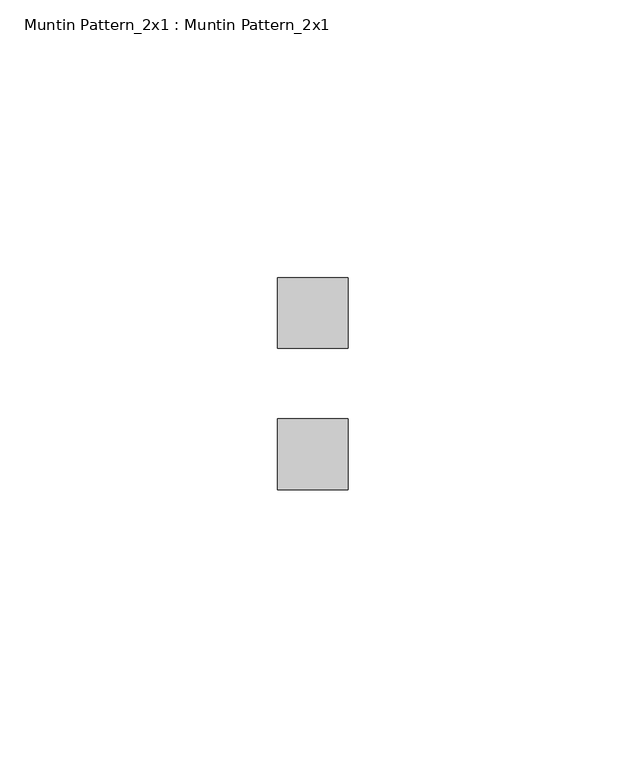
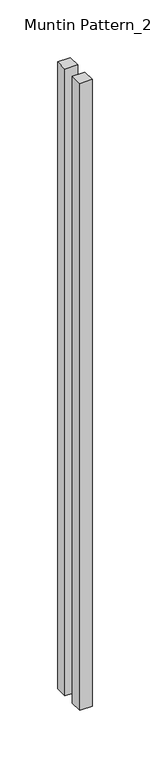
"""IFC4 building model written with IfcOpenShell, lengths in millimetres: proxy geometry, Muntin Pattern_2x1 : Muntin Pattern_2x1."""

from ifc_helpers import new_model, si_unit, origin, origin_with_axes, place, context, project, spatial, polyline, outline, extrude, source, transform, mapped, element, save


def muntin_pattern_2x1_muntin_pattern_2x1_e36e0986(model_context):
    return source(origin(), model_context, "Body", "SweptSolid", [
        extrude(outline(polyline([(-6.35, 19.05), (6.35, 19.05), (6.35, 6.35), (-6.35, 6.35), (-6.35, 19.05)])), origin_with_axes(), (0.0, 0.0, 1.0), 663.575),
        extrude(outline(polyline([(-6.35, -6.35), (6.35, -6.35), (6.35, -19.05), (-6.35, -19.05), (-6.35, -6.35)])), origin_with_axes(), (0.0, 0.0, 1.0), 663.575),
    ])


if __name__ == "__main__":
    model = new_model("IFC4")
    model_context = context("Model", 3, world=origin())
    ifc_project = project(units=[si_unit("LENGTHUNIT", "METRE", prefix="MILLI")], contexts=[model_context])
    site = spatial("IfcSite", under=ifc_project)
    building = spatial("IfcBuilding", under=site)
    placement = place(None, origin())
    muntin_pattern_2x1_muntin_pattern_2x1_shape = muntin_pattern_2x1_muntin_pattern_2x1_e36e0986(model_context)
    element("IfcBuildingElementProxy", 1, Name="Muntin Pattern_2x1 : Muntin Pattern_2x1", ObjectType="Muntin Pattern_2x1 : Muntin Pattern_2x1", at=placement, inside=building, context=model_context, shape_type="MappedRepresentation", body=[
        mapped(muntin_pattern_2x1_muntin_pattern_2x1_shape, transform((0.0, 0.0, 0.0), x_axis=(1.0, 0.0, 0.0), y_axis=(0.0, 1.0, 0.0), z_axis=(0.0, 0.0, 1.0))),
    ])
    save(model, "model.ifc")
